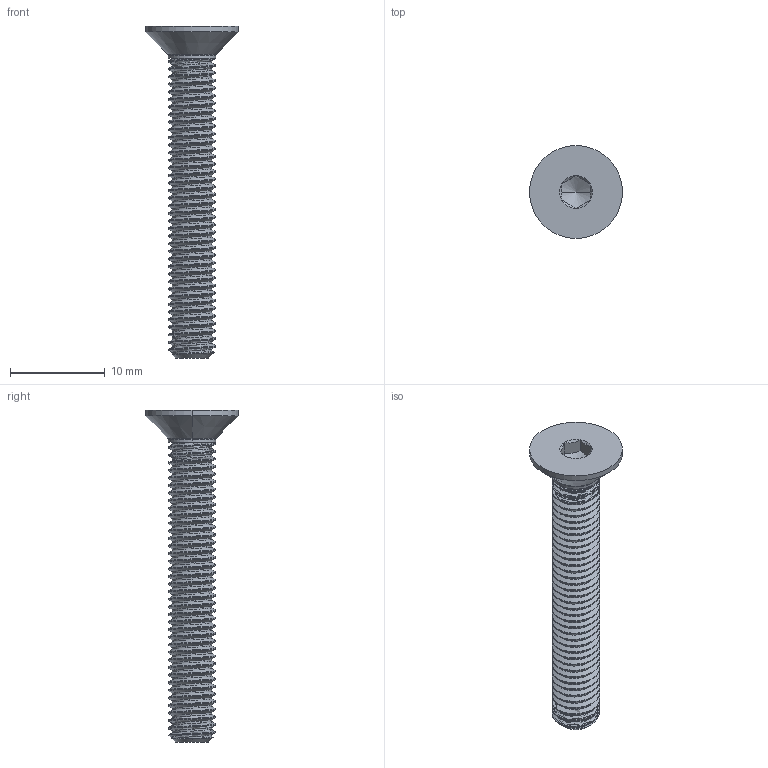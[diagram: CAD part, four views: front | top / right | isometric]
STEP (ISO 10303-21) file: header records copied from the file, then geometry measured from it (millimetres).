
FILE_DESCRIPTION (( 'STEP AP203' ), '1' );
FILE_NAME ('M5x35_DIN7991.STEP', '2025-11-14T09:39:23', ( '' ), ( '' ), 'SwSTEP 2.0', 'SolidWorks 2022', '' );
FILE_SCHEMA (( 'CONFIG_CONTROL_DESIGN' ));
Length unit declared in the file: millimetre
Products named in the file (1): M5x35_DIN7991
Bounding box: 9.8 x 9.8 x 35 mm (x, y, z)
Volume: 654.6 mm3; surface area: 968.7 mm2
Topology: 2 solids, 2 shells, 110 faces, 312 edges, 205 vertices
Faces by surface type: cylinder 82, cone 13, plane 10, bspline 3, torus 2
Entity records: 9622 total; most frequent: CARTESIAN_POINT 7208, ORIENTED_EDGE 620, DIRECTION 368, EDGE_CURVE 310, VERTEX_POINT 205, AXIS2_PLACEMENT_3D 131, EDGE_LOOP 111, FACE_OUTER_BOUND 110
